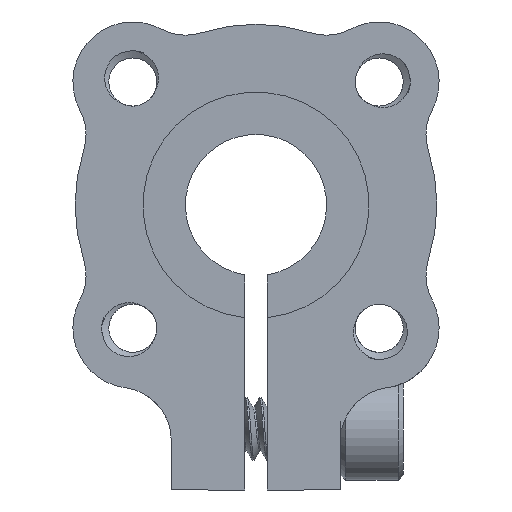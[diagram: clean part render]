
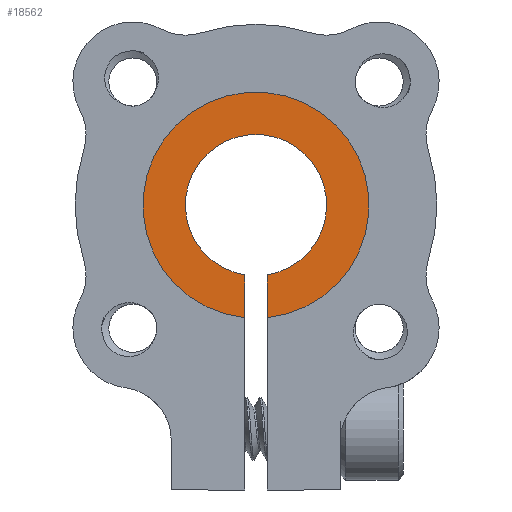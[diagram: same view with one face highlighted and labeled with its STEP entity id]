
A CAD part, front view. The second image highlights one B-rep face of the part: STEP entity #18562.
In plain terms, the highlighted planar face has unit normal (0, -1, 0).
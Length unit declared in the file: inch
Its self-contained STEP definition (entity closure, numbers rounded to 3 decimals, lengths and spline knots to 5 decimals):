
#102 = VERTEX_POINT ( 'NONE', #11237 ) ;
#1070 = DIRECTION ( 'NONE',  ( 0., 0., 1. ) ) ;
#1134 = EDGE_CURVE ( 'NONE', #102, #17876, #6152, .T. ) ;
#2536 = DIRECTION ( 'NONE',  ( 0., 0., 1. ) ) ;
#3020 = AXIS2_PLACEMENT_3D ( 'NONE', #13802, #9359, #16871 ) ;
#6152 = LINE ( 'NONE', #17149, #10579 ) ;
#6984 = CARTESIAN_POINT ( 'NONE',  ( 0., 0., 0. ) ) ;
#7454 = CIRCLE ( 'NONE', #13968, 0.15625 ) ;
#7811 = FACE_OUTER_BOUND ( 'NONE', #8446, .T. ) ;
#7926 = CARTESIAN_POINT ( 'NONE',  ( 0.025, 0., -0.24875 ) ) ;
#8446 = EDGE_LOOP ( 'NONE', ( #11850, #18269, #17388, #16399 ) ) ;
#8468 = EDGE_CURVE ( 'NONE', #14078, #17876, #7454, .T. ) ;
#9254 = VECTOR ( 'NONE', #10367, 39.37008 ) ;
#9359 = DIRECTION ( 'NONE',  ( 0., 1., 0. ) ) ;
#9447 = DIRECTION ( 'NONE',  ( 0., 0., -1. ) ) ;
#10367 = DIRECTION ( 'NONE',  ( 0., 0., -1. ) ) ;
#10403 = CARTESIAN_POINT ( 'NONE',  ( 0.025, 0., -0.15424 ) ) ;
#10468 = PLANE ( 'NONE',  #3020 ) ;
#10579 = VECTOR ( 'NONE', #2536, 39.37008 ) ;
#10798 = CARTESIAN_POINT ( 'NONE',  ( -0.025, 0., -0.15424 ) ) ;
#11237 = CARTESIAN_POINT ( 'NONE',  ( -0.025, 0., -0.24875 ) ) ;
#11618 = DIRECTION ( 'NONE',  ( 0., 1., 0. ) ) ;
#11850 = ORIENTED_EDGE ( 'NONE', *, *, #8468, .F. ) ;
#12438 = CARTESIAN_POINT ( 'NONE',  ( 0., 0., 0. ) ) ;
#12800 = VERTEX_POINT ( 'NONE', #7926 ) ;
#13802 = CARTESIAN_POINT ( 'NONE',  ( 0., 0., 0. ) ) ;
#13968 = AXIS2_PLACEMENT_3D ( 'NONE', #12438, #16694, #9447 ) ;
#14078 = VERTEX_POINT ( 'NONE', #10403 ) ;
#14887 = CARTESIAN_POINT ( 'NONE',  ( 0.025, 0., -0.39922 ) ) ;
#15747 = EDGE_CURVE ( 'NONE', #102, #12800, #18881, .T. ) ;
#15873 = EDGE_CURVE ( 'NONE', #14078, #12800, #16728, .T. ) ;
#16399 = ORIENTED_EDGE ( 'NONE', *, *, #1134, .T. ) ;
#16694 = DIRECTION ( 'NONE',  ( 0., -1., 0. ) ) ;
#16728 = LINE ( 'NONE', #14887, #9254 ) ;
#16871 = DIRECTION ( 'NONE',  ( 0., 0., 1. ) ) ;
#17149 = CARTESIAN_POINT ( 'NONE',  ( -0.025, 0., -0.39922 ) ) ;
#17388 = ORIENTED_EDGE ( 'NONE', *, *, #15747, .F. ) ;
#17876 = VERTEX_POINT ( 'NONE', #10798 ) ;
#18269 = ORIENTED_EDGE ( 'NONE', *, *, #15873, .T. ) ;
#18395 = AXIS2_PLACEMENT_3D ( 'NONE', #6984, #11618, #1070 ) ;
#18562 = ADVANCED_FACE ( 'NONE', ( #7811 ), #10468, .F. ) ;
#18881 = CIRCLE ( 'NONE', #18395, 0.25 ) ;
